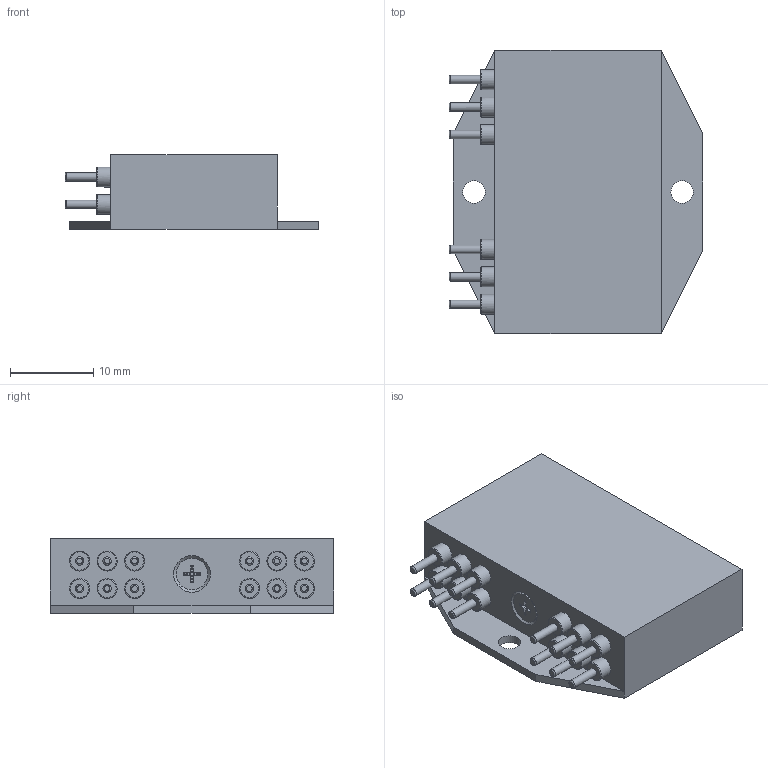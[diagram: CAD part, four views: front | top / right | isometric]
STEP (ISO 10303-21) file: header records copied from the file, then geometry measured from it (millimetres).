
FILE_DESCRIPTION(/* description */ (''),/* implementation_level */ '2;1');
FILE_NAME(/* name */ 'F:\daten\PRODUKTE\TELEMETR\SV\Mechanik\CAD\4b\PCM\Geh_B30xT34xH9\kunde\SV_4b_PCM_B30xT34xH9.stp',/* time_stamp */ '2019-09-03T09:37:21+02:00',/* author */ ('dschaefer'),/* organization */ (''),/* preprocessor_version */ 'ST-DEVELOPER v16.5',/* originating_system */ 'Autodesk Inventor 2017',/* authorisation */ '');
FILE_SCHEMA (('AUTOMOTIVE_DESIGN { 1 0 10303 214 3 1 1 }'));
Length unit declared in the file: millimetre
Products named in the file (1): SV_4b_PCM_B30xT34xH9
Bounding box: 30.5 x 34 x 9 mm (x, y, z)
Volume: 6398.4 mm3; surface area: 3433.4 mm2
Topology: 1 solids, 2 shells, 122 faces, 273 edges, 181 vertices
Faces by surface type: plane 54, cylinder 31, torus 28, cone 9
Full cylindrical faces by diameter (mm): 1 x12, 2.4 x12, 2.7 x2, 3.8 x1
Entity records: 3109 total; most frequent: DIRECTION 556, CARTESIAN_POINT 473, ORIENTED_EDGE 390, AXIS2_PLACEMENT_3D 238, EDGE_LOOP 204, EDGE_CURVE 195, VERTEX_POINT 155, FACE_OUTER_BOUND 122
